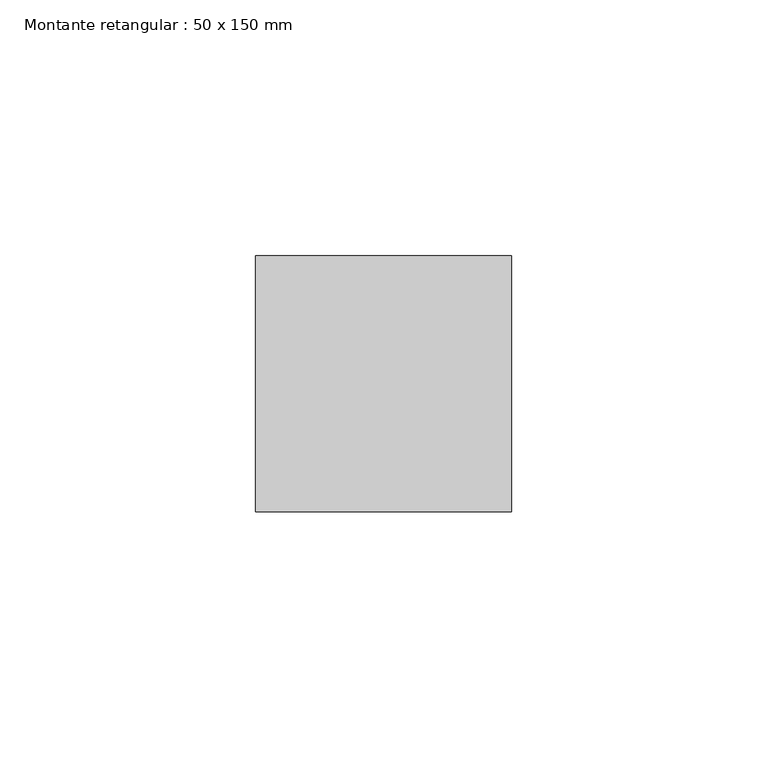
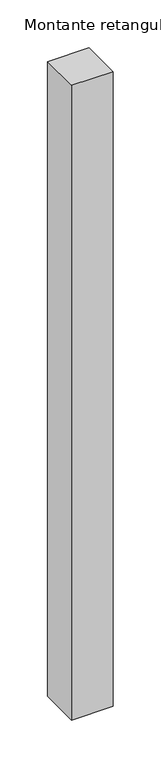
"""IFC4 building model written with IfcOpenShell, lengths in millimetres: member geometry, Montante retangular : 50 x 150 mm."""

from ifc_helpers import new_model, si_unit, frame, origin, place, context, project, spatial, polyline, outline, extrude, source, transform, mapped, element, save


def montante_retangular_50_x_150_mm_1f3c3dd6(model_context):
    return source(origin(), model_context, "Body", "SweptSolid", [
        extrude(outline(polyline([(0.0, 25.0), (0.0, -25.0), (-50.0, -25.0), (-50.0, 25.0), (0.0, 25.0)])), frame((0.0, 0.0, -808.3329921), z_axis=(0.0, 0.0, 1.0), x_axis=(1.0, 0.0, 0.0)), (0.0, 0.0, 1.0), 808.3329921),
    ])


if __name__ == "__main__":
    model = new_model("IFC4")
    model_context = context("Model", 3, world=origin())
    ifc_project = project(units=[si_unit("LENGTHUNIT", "METRE", prefix="MILLI")], contexts=[model_context])
    site = spatial("IfcSite", under=ifc_project)
    building = spatial("IfcBuilding", under=site)
    placement = place(None, origin())
    montante_retangular_50_x_150_mm_shape = montante_retangular_50_x_150_mm_1f3c3dd6(model_context)
    element("IfcMember", 1, ObjectType="Montante retangular : 50 x 150 mm", at=placement, inside=building, context=model_context, shape_type="MappedRepresentation", body=[
        mapped(montante_retangular_50_x_150_mm_shape, transform((0.0, 0.0, 0.0), x_axis=(1.0, 0.0, 0.0), y_axis=(0.0, 1.0, 0.0), z_axis=(0.0, 0.0, 1.0))),
    ])
    save(model, "model.ifc")
